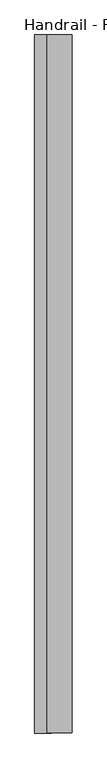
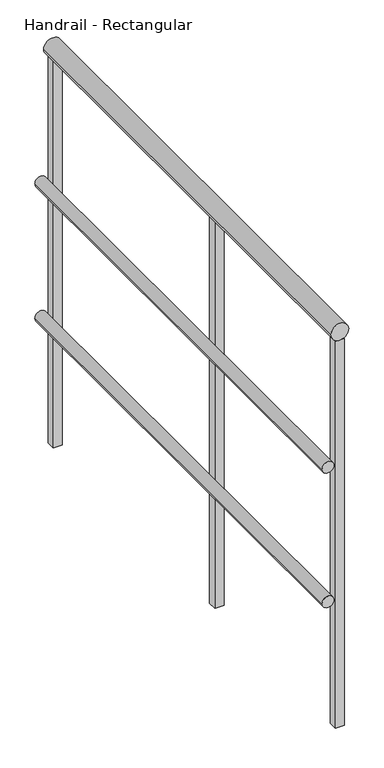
"""IFC4 building model written with IfcOpenShell, lengths in millimetres: railing geometry, Handrail - Rectangular."""

import ifcopenshell
import ifcopenshell.guid

model = None  # the IFC model being written
_history = None  # IfcOwnerHistory: only IFC2X3 demands one
_inside = {}  # id of a spatial element -> (the spatial element, [elements in it])
_under = {}  # id of a project, library or spatial element -> (it, [spatial elements below it])
_declared = {}  # id of a project -> (the project, [libraries it declares])
_typed = {}  # id of a type object -> (the type object, [elements of that type])
_made_of = {}  # id of a material, layer set ... -> (it, [elements and type objects made of it])


def new_model(schema):
    """Start an empty IFC model of exactly this schema.

    Asked for "IFC4X3", IfcOpenShell would pick the latest addendum, in which some entities
    have other attributes; the version numbers below select the first issue.
    IFC2X3 requires an IfcOwnerHistory on every rooted entity: one is made here for all.
    """
    global model, _history
    if schema == "IFC4X3":
        model = ifcopenshell.file(schema_version=(4, 3, 0, 0))
    else:
        model = ifcopenshell.file(schema=schema)
    _inside.clear()
    _under.clear()
    _declared.clear()
    _typed.clear()
    _made_of.clear()
    _history = None
    if model.schema == "IFC2X3":
        org = make("IfcOrganization", Name="unknown")
        user = make(
            "IfcPersonAndOrganization",
            ThePerson=make("IfcPerson", FamilyName="unknown"),
            TheOrganization=org,
        )
        app = make(
            "IfcApplication",
            ApplicationDeveloper=org,
            Version="unknown",
            ApplicationFullName="unknown",
            ApplicationIdentifier="unknown",
        )
        _history = make(
            "IfcOwnerHistory",
            OwningUser=user,
            OwningApplication=app,
            ChangeAction="ADDED",
            CreationDate=0,
        )
    return model


def make(cls, **values):
    """One entity of the class cls with the attributes given. An attribute that is None is left unset."""
    return model.create_entity(
        cls, **{name: value for name, value in values.items() if value is not None}
    )


def rooted(cls, **values):
    """An entity with a GlobalId (a new one), such as an element, a storey or a relation."""
    return make(cls, GlobalId=ifcopenshell.guid.new(), OwnerHistory=_history, **values)


def si_unit(unit_type, name, prefix=None):
    """IfcSIUnit, for example si_unit("LENGTHUNIT", "METRE", prefix="MILLI")."""
    return make("IfcSIUnit", UnitType=unit_type, Prefix=prefix, Name=name)


def assignment(units):
    """IfcUnitAssignment: the units of a project."""
    return None if units is None else make("IfcUnitAssignment", Units=units)


def point(xyz):
    """IfcCartesianPoint."""
    return None if xyz is None else make("IfcCartesianPoint", Coordinates=xyz)


def direction(xyz):
    """IfcDirection."""
    return None if xyz is None else make("IfcDirection", DirectionRatios=xyz)


def frame(location, z_axis=None, x_axis=None):
    """IfcAxis2Placement3D, a coordinate frame: its origin and axes. An axis left out is left unset."""
    return make(
        "IfcAxis2Placement3D",
        Location=point(location),
        Axis=direction(z_axis),
        RefDirection=direction(x_axis),
    )


def frame_2d(location, x_axis=None):
    """IfcAxis2Placement2D, a coordinate frame in the plane: its origin and x axis."""
    return make(
        "IfcAxis2Placement2D", Location=point(location), RefDirection=direction(x_axis)
    )


def origin():
    """The frame at (0, 0, 0) with its axes left unset."""
    return frame((0.0, 0.0, 0.0))


def place(relative_to, where):
    """IfcLocalPlacement: puts the frame where relative to a parent placement (None: the world)."""
    return make(
        "IfcLocalPlacement", PlacementRelTo=relative_to, RelativePlacement=where
    )


def context(
    kind, dimensions, precision=None, world=None, true_north=None, identifier=None
):
    """IfcGeometricRepresentationContext, for example the 3D "Model" context."""
    return make(
        "IfcGeometricRepresentationContext",
        ContextIdentifier=identifier,
        ContextType=kind,
        CoordinateSpaceDimension=dimensions,
        Precision=precision,
        WorldCoordinateSystem=world,
        TrueNorth=true_north,
    )


def project(units=None, contexts=None):
    """IfcProject with its units and contexts."""
    return rooted(
        "IfcProject",
        Name="project",
        RepresentationContexts=contexts,
        UnitsInContext=assignment(units),
    )


def spatial(cls, under=None, at=None, **own):
    """A site, building, storey or space (cls), placed at a placement, below another one or the project."""
    s = rooted(cls, ObjectPlacement=at, **own)
    if under is not None:
        _under.setdefault(under.id(), (under, []))[1].append(s)
    return s


def polyline(points):
    """IfcPolyline through the points."""
    return make("IfcPolyline", Points=[point(p) for p in points])


def circle_curve(where, radius):
    """IfcCircle in the frame where."""
    return make("IfcCircle", Position=where, Radius=radius)


def trimmed(basis, trim1, trim2, sense, master):
    """IfcTrimmedCurve: the piece of a basis curve between two trims."""
    return make(
        "IfcTrimmedCurve",
        BasisCurve=basis,
        Trim1=trim1,
        Trim2=trim2,
        SenseAgreement=sense,
        MasterRepresentation=master,
    )


def segment(curve, same_sense, transition):
    """IfcCompositeCurveSegment."""
    return make(
        "IfcCompositeCurveSegment",
        Transition=transition,
        SameSense=same_sense,
        ParentCurve=curve,
    )


def composite_curve(segments, self_intersect=None):
    """IfcCompositeCurve: segments joined end to end."""
    return make("IfcCompositeCurve", Segments=segments, SelfIntersect=self_intersect)


def outline(outer, holes=None, kind="AREA"):
    """IfcArbitraryClosedProfileDef: a profile drawn as a closed curve; with holes, ...WithVoids."""
    if holes is None:
        return make("IfcArbitraryClosedProfileDef", ProfileType=kind, OuterCurve=outer)
    return make(
        "IfcArbitraryProfileDefWithVoids",
        ProfileType=kind,
        OuterCurve=outer,
        InnerCurves=holes,
    )


def extrude(swept, where, along, depth):
    """IfcExtrudedAreaSolid: the profile swept, set in the frame where, extruded along a direction by depth."""
    return make(
        "IfcExtrudedAreaSolid",
        SweptArea=swept,
        Position=where,
        ExtrudedDirection=direction(along),
        Depth=depth,
    )


def shape(context_of_items, identifier, shape_type, items):
    """IfcShapeRepresentation: the items that make up one representation, for example the "Body"."""
    return make(
        "IfcShapeRepresentation",
        ContextOfItems=context_of_items,
        RepresentationIdentifier=identifier,
        RepresentationType=shape_type,
        Items=items,
    )


def source(mapping_origin, context_of_items, identifier, shape_type, items):
    """IfcRepresentationMap: a shape defined once, which mapped items show again and again."""
    return make(
        "IfcRepresentationMap",
        MappingOrigin=mapping_origin,
        MappedRepresentation=shape(context_of_items, identifier, shape_type, items),
    )


def transform(
    local_origin,
    x_axis=None,
    y_axis=None,
    z_axis=None,
    scale=None,
    scale2=None,
    scale3=None,
    uniform=True,
):
    """IfcCartesianTransformationOperator3D, or its non-uniform kind. x_axis, y_axis, z_axis: its Axis1, 2, 3."""
    if uniform:
        return make(
            "IfcCartesianTransformationOperator3D",
            Axis1=direction(x_axis),
            Axis2=direction(y_axis),
            LocalOrigin=point(local_origin),
            Scale=scale,
            Axis3=direction(z_axis),
        )
    return make(
        "IfcCartesianTransformationOperator3DnonUniform",
        Axis1=direction(x_axis),
        Axis2=direction(y_axis),
        LocalOrigin=point(local_origin),
        Scale=scale,
        Axis3=direction(z_axis),
        Scale2=scale2,
        Scale3=scale3,
    )


def mapped(mapping_source, mapping_target):
    """IfcMappedItem: shows the shape of a source again, moved by a transform."""
    return make(
        "IfcMappedItem", MappingSource=mapping_source, MappingTarget=mapping_target
    )


def made_of(thing, what):
    """Note that an element or type object is made of a material, layer set ...; save() writes the relation."""
    if what is not None:
        _made_of.setdefault(what.id(), (what, []))[1].append(thing)
    return thing


def element(
    cls,
    number,
    at=None,
    inside=None,
    cuts=None,
    type_object=None,
    material=None,
    context=None,
    identifier="Body",
    shape_type=None,
    held_by="IfcProductDefinitionShape",
    body=None,
    shapes=None,
    **own,
):
    """One element of the class cls, such as IfcWall. Its Tag is "e" and its number.

    at: its placement. inside: the storey or other place that contains it. cuts: it is an
    opening in that element (IfcRelVoidsElement). A single representation is given by context,
    identifier, shape_type and body (its items); several are given by shapes. held_by: the class
    of the entity that holds the representations. save() writes the other relations.
    """
    e = rooted(cls, Tag="e%d" % number, ObjectPlacement=at, **own)
    if body is not None:
        shapes = [shape(context, identifier, shape_type, body)]
    if shapes is not None:
        e.Representation = make(held_by, Representations=shapes)
    if inside is not None:
        _inside.setdefault(inside.id(), (inside, []))[1].append(e)
    if cuts is not None:
        rooted(
            "IfcRelVoidsElement", RelatingBuildingElement=cuts, RelatedOpeningElement=e
        )
    if type_object is not None:
        _typed.setdefault(type_object.id(), (type_object, []))[1].append(e)
    return made_of(e, material)


def aggregate(whole, parts):
    """IfcRelAggregates: a whole, such as a stair, and the parts it consists of."""
    return rooted("IfcRelAggregates", RelatingObject=whole, RelatedObjects=parts)


def save(model, path):
    """Write the relations noted so far, then the file.

    IfcRelAggregates (storeys below a building ...), IfcRelContainedInSpatialStructure (elements
    in a storey), IfcRelDefinesByType, IfcRelAssociatesMaterial and IfcRelDeclares: one each for
    every whole, place, type object, material and project.
    """
    for whole, parts in _under.values():
        aggregate(whole, parts)
    for where, things in _inside.values():
        rooted(
            "IfcRelContainedInSpatialStructure",
            RelatedElements=things,
            RelatingStructure=where,
        )
    for kind, things in _typed.values():
        rooted("IfcRelDefinesByType", RelatedObjects=things, RelatingType=kind)
    for what, things in _made_of.values():
        rooted("IfcRelAssociatesMaterial", RelatedObjects=things, RelatingMaterial=what)
    for by, libraries in _declared.values():
        rooted("IfcRelDeclares", RelatingContext=by, RelatedDefinitions=libraries)
    model.write(path)


def handrail_rectangular_e26642b2(model_context):
    return source(origin(), model_context, "Body", "SweptSolid", [
        extrude(outline(composite_curve([segment(trimmed(circle_curve(frame_2d((3644.9, -32192.8839563)), 12.7), [point((3644.9, -32205.5839563))], [point((3644.9, -32180.1839563))], False, "CARTESIAN"), True, "CONTINUOUS"), segment(trimmed(circle_curve(frame_2d((3644.9, -32192.8839563)), 12.7), [point((3644.9, -32180.1839563))], [point((3644.9, -32205.5839563))], False, "CARTESIAN"), True, "CONTINUOUS")], self_intersect=False)), frame((0.0, 10674.8316867, 0.0), z_axis=(0.0, 1.0, 0.0), x_axis=(0.0, 0.0, 1.0)), (0.0, 0.0, 1.0), 1066.8),
        extrude(outline(composite_curve([segment(trimmed(circle_curve(frame_2d((3340.1, -32192.8839563)), 12.7), [point((3340.1, -32205.5839563))], [point((3340.1, -32180.1839563))], False, "CARTESIAN"), True, "CONTINUOUS"), segment(trimmed(circle_curve(frame_2d((3340.1, -32192.8839563)), 12.7), [point((3340.1, -32180.1839563))], [point((3340.1, -32205.5839563))], False, "CARTESIAN"), True, "CONTINUOUS")], self_intersect=False)), frame((0.0, 10674.8316867, 0.0), z_axis=(0.0, 1.0, 0.0), x_axis=(0.0, 0.0, 1.0)), (0.0, 0.0, 1.0), 1066.8),
        extrude(outline(composite_curve([segment(trimmed(circle_curve(frame_2d((3943.35, -32167.4839563)), 19.05), [point((3943.35, -32186.5339563))], [point((3943.35, -32148.4339563))], False, "CARTESIAN"), True, "CONTINUOUS"), segment(trimmed(circle_curve(frame_2d((3943.35, -32167.4839563)), 19.05), [point((3943.35, -32148.4339563))], [point((3943.35, -32186.5339563))], False, "CARTESIAN"), True, "CONTINUOUS")], self_intersect=False)), frame((0.0, 10674.8316867, 0.0), z_axis=(0.0, 1.0, 0.0), x_axis=(0.0, 0.0, 1.0)), (0.0, 0.0, 1.0), 1066.8),
        extrude(outline(polyline([(-32157.9589563, 11141.5566867), (-32157.9589563, 11122.5066867), (-32177.0089563, 11122.5066867), (-32177.0089563, 11141.5566867), (-32157.9589563, 11141.5566867)])), frame((0.0, 0.0, 3048.0), z_axis=(0.0, 0.0, 1.0), x_axis=(1.0, 0.0, 0.0)), (0.0, 0.0, 1.0), 876.3),
        extrude(outline(polyline([(-32157.9589563, 10693.8816867), (-32157.9589563, 10674.8316867), (-32177.0089563, 10674.8316867), (-32177.0089563, 10693.8816867), (-32157.9589563, 10693.8816867)])), frame((0.0, 0.0, 3048.0), z_axis=(0.0, 0.0, 1.0), x_axis=(1.0, 0.0, 0.0)), (0.0, 0.0, 1.0), 876.3),
        extrude(outline(polyline([(-32157.9589563, 11741.6316867), (-32157.9589563, 11722.5816867), (-32177.0089563, 11722.5816867), (-32177.0089563, 11741.6316867), (-32157.9589563, 11741.6316867)])), frame((0.0, 0.0, 3048.0), z_axis=(0.0, 0.0, 1.0), x_axis=(1.0, 0.0, 0.0)), (0.0, 0.0, 1.0), 876.3),
    ])


if __name__ == "__main__":
    model = new_model("IFC4")
    model_context = context("Model", 3, world=origin())
    ifc_project = project(units=[si_unit("LENGTHUNIT", "METRE", prefix="MILLI")], contexts=[model_context])
    site = spatial("IfcSite", under=ifc_project)
    building = spatial("IfcBuilding", under=site)
    placement = place(None, origin())
    handrail_rectangular_shape = handrail_rectangular_e26642b2(model_context)
    element("IfcRailing", 1, ObjectType="Handrail - Rectangular", at=placement, inside=building, context=model_context, shape_type="MappedRepresentation", body=[
        mapped(handrail_rectangular_shape, transform((0.0, 0.0, 0.0), x_axis=(1.0, 0.0, 0.0), y_axis=(0.0, 1.0, 0.0), z_axis=(0.0, 0.0, 1.0))),
    ])
    save(model, "model.ifc")
